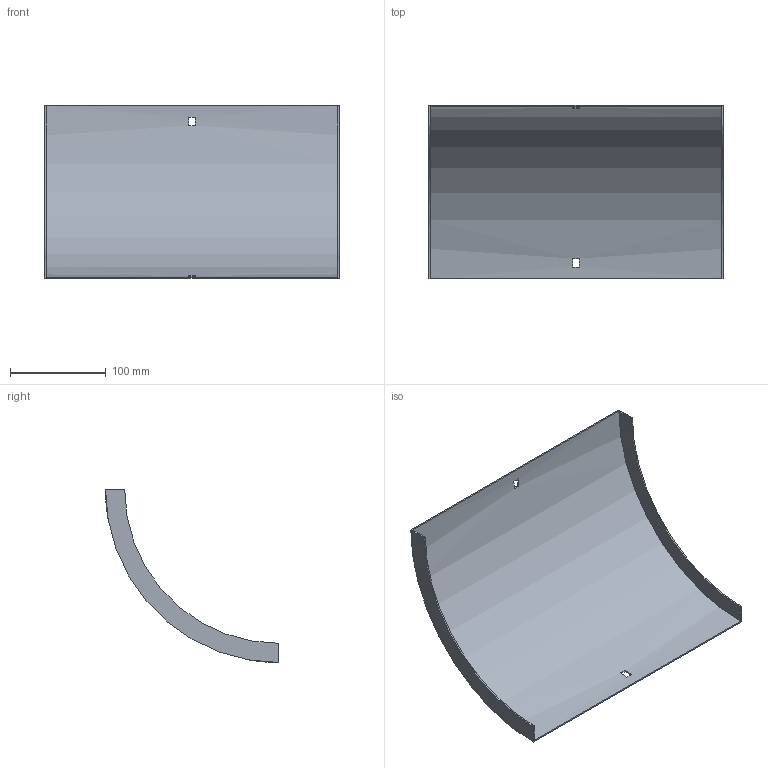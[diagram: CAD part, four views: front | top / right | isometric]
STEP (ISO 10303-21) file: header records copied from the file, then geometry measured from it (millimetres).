
FILE_DESCRIPTION (( 'STEP AP214' ), '1' );
FILE_NAME ('33N1C300.step', '2025-02-21T09:19:09', ( '' ), ( '' ), 'SwSTEP 2.0', 'SolidWorks 2023', '' );
FILE_SCHEMA (( 'AUTOMOTIVE_DESIGN' ));
Length unit declared in the file: millimetre
Products named in the file (1): 33N1C300
Bounding box: 307 x 180.5 x 180.5 mm (x, y, z)
Volume: 144644.9 mm3; surface area: 194745.1 mm2
Topology: 1 solids, 1 shells, 18 faces, 48 edges, 32 vertices
Faces by surface type: plane 14, cylinder 4
Entity records: 599 total; most frequent: DIRECTION 102, CARTESIAN_POINT 99, ORIENTED_EDGE 96, EDGE_CURVE 48, AXIS2_PLACEMENT_3D 35, LINE 32, VERTEX_POINT 32, VECTOR 32
